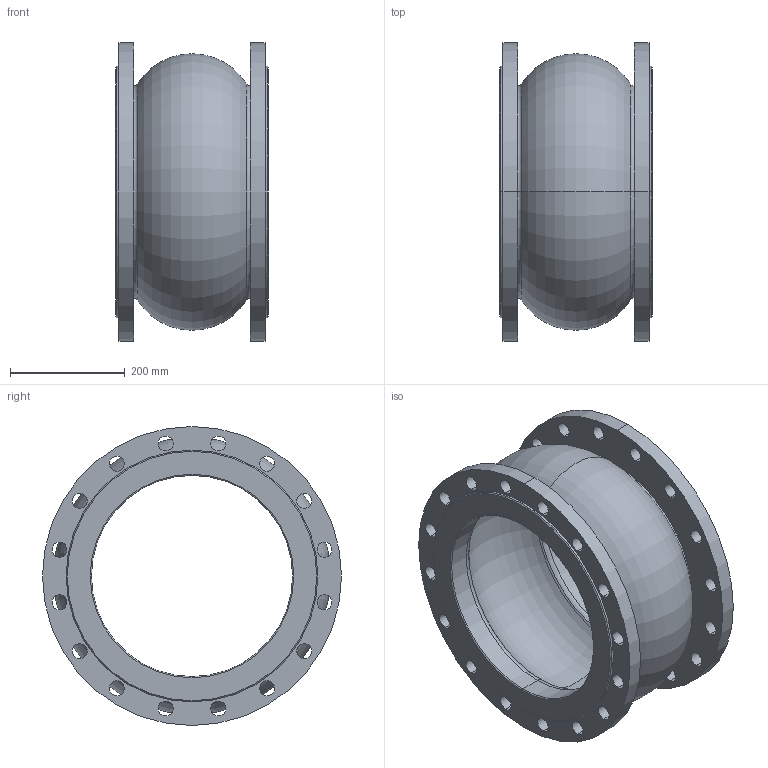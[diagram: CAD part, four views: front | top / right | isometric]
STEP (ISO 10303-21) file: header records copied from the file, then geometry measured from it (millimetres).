
FILE_DESCRIPTION (( 'STEP AP203' ), '1' );
FILE_NAME ('F8_PN16_DN350.STEP', '2012-10-31T09:23:12', ( 'luca.saino' ), ( 'Hewlett-Packard Company' ), 'SwSTEP 2.0', 'SolidWorks 2012', '' );
FILE_SCHEMA (( 'CONFIG_CONTROL_DESIGN' ));
Length unit declared in the file: millimetre
Products named in the file (1): F8_PN16_DN350
Bounding box: 266 x 520 x 520 mm (x, y, z)
Volume: 10364412.1 mm3; surface area: 1304209.6 mm2
Topology: 1 solids, 1 shells, 106 faces, 276 edges, 176 vertices
Faces by surface type: cylinder 76, torus 16, cone 8, plane 6
Entity records: 3549 total; most frequent: DIRECTION 682, CARTESIAN_POINT 559, ORIENTED_EDGE 552, AXIS2_PLACEMENT_3D 299, EDGE_CURVE 276, CIRCLE 192, VERTEX_POINT 176, EDGE_LOOP 176
